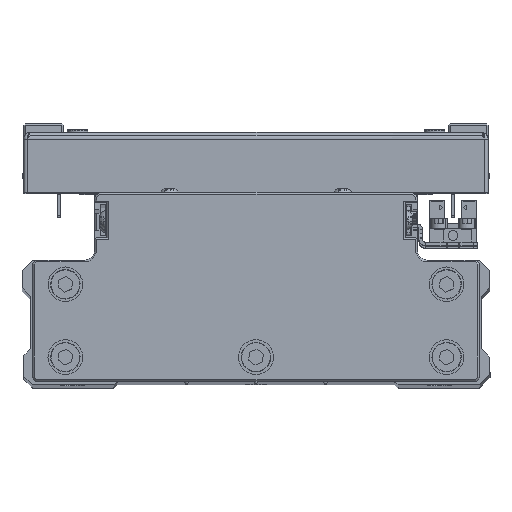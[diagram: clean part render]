
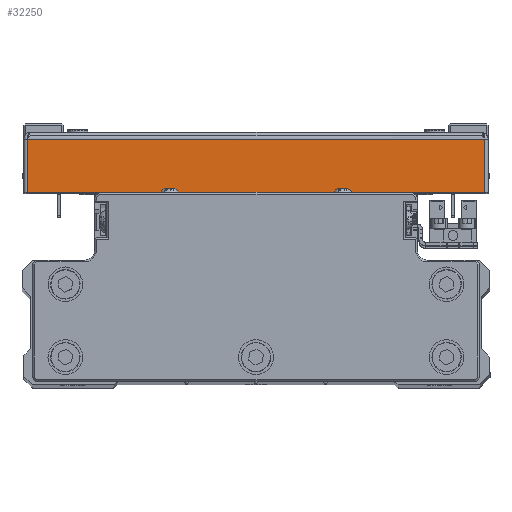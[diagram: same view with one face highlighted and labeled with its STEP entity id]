
A CAD part, top view. The second image highlights one B-rep face of the part: STEP entity #32250.
In plain terms, the highlighted planar face has unit normal (0, 0, 1) as drawn and (1, 0, 0) by its records, which use the part's own axes.
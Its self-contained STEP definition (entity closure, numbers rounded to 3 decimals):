
#101 = ORIENTED_EDGE ( 'NONE', *, *, #26539, .F. ) ;
#378 = PLANE ( 'NONE',  #31127 ) ;
#4203 = VECTOR ( 'NONE', #11201, 1000. ) ;
#4986 = VERTEX_POINT ( 'NONE', #15750 ) ;
#6388 = CARTESIAN_POINT ( 'NONE',  ( 75., 0., -65.929 ) ) ;
#8269 = LINE ( 'NONE', #21669, #9856 ) ;
#9856 = VECTOR ( 'NONE', #35100, 1000. ) ;
#11201 = DIRECTION ( 'NONE',  ( 0., 0., 1. ) ) ;
#11216 = VERTEX_POINT ( 'NONE', #40047 ) ;
#11437 = CARTESIAN_POINT ( 'NONE',  ( 75., 16.5, 0. ) ) ;
#13757 = CARTESIAN_POINT ( 'NONE',  ( 75., 0., 0. ) ) ;
#14463 = VERTEX_POINT ( 'NONE', #38224 ) ;
#14481 = CARTESIAN_POINT ( 'NONE',  ( 75., 1., -65.929 ) ) ;
#14860 = ORIENTED_EDGE ( 'NONE', *, *, #30921, .T. ) ;
#15750 = CARTESIAN_POINT ( 'NONE',  ( 75., 16.5, -65.929 ) ) ;
#17400 = ORIENTED_EDGE ( 'NONE', *, *, #20846, .T. ) ;
#18228 = VECTOR ( 'NONE', #19808, 1000. ) ;
#19808 = DIRECTION ( 'NONE',  ( 0., 1., 0. ) ) ;
#20846 = EDGE_CURVE ( 'NONE', #41599, #4986, #36521, .T. ) ;
#21032 = EDGE_CURVE ( 'NONE', #41599, #11216, #27927, .T. ) ;
#21669 = CARTESIAN_POINT ( 'NONE',  ( 75., 0., 65.929 ) ) ;
#24492 = ORIENTED_EDGE ( 'NONE', *, *, #21032, .F. ) ;
#24848 = DIRECTION ( 'NONE',  ( 0., 0., 1. ) ) ;
#25829 = EDGE_LOOP ( 'NONE', ( #24492, #17400, #14860, #101 ) ) ;
#26539 = EDGE_CURVE ( 'NONE', #11216, #14463, #8269, .T. ) ;
#27186 = DIRECTION ( 'NONE',  ( -1., 0., 0. ) ) ;
#27927 = LINE ( 'NONE', #41338, #4203 ) ;
#30488 = FACE_OUTER_BOUND ( 'NONE', #25829, .T. ) ;
#30921 = EDGE_CURVE ( 'NONE', #4986, #14463, #41569, .T. ) ;
#31127 = AXIS2_PLACEMENT_3D ( 'NONE', #13757, #27186, #40592 ) ;
#31865 = VECTOR ( 'NONE', #24848, 1000. ) ;
#32250 = ADVANCED_FACE ( 'NONE', ( #30488 ), #378, .F. ) ;
#35100 = DIRECTION ( 'NONE',  ( 0., 1., 0. ) ) ;
#36521 = LINE ( 'NONE', #6388, #18228 ) ;
#38224 = CARTESIAN_POINT ( 'NONE',  ( 75., 16.5, 65.929 ) ) ;
#40047 = CARTESIAN_POINT ( 'NONE',  ( 75., 1., 65.929 ) ) ;
#40592 = DIRECTION ( 'NONE',  ( 0., -1., 0. ) ) ;
#41338 = CARTESIAN_POINT ( 'NONE',  ( 75., 1., 67. ) ) ;
#41569 = LINE ( 'NONE', #11437, #31865 ) ;
#41599 = VERTEX_POINT ( 'NONE', #14481 ) ;
